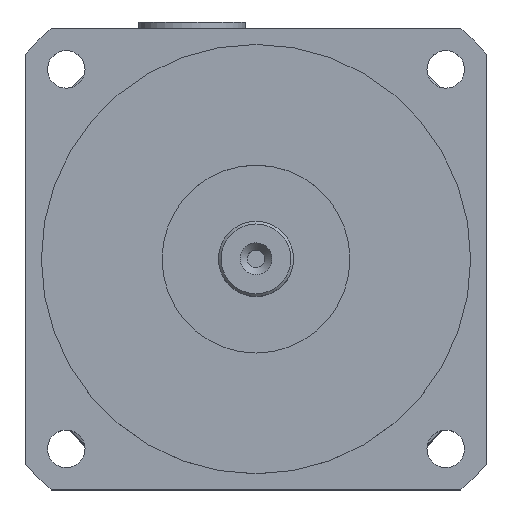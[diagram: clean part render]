
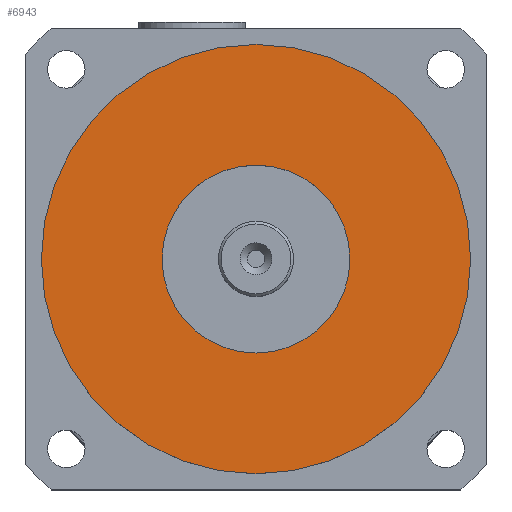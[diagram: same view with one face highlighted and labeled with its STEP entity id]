
A CAD part, top view. The second image highlights one B-rep face of the part: STEP entity #6943.
In plain terms, the highlighted planar face has unit normal (0, 0, 1).
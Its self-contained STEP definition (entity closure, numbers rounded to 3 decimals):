
#2861=VERTEX_POINT('',#10649);
#2862=VERTEX_POINT('',#10653);
#3313=CIRCLE('',#7525,17.5);
#3314=CIRCLE('',#7528,40.);
#3790=EDGE_CURVE('',#2861,#2861,#3313,.T.);
#3791=EDGE_CURVE('',#2862,#2862,#3314,.T.);
#4780=ORIENTED_EDGE('',*,*,#3791,.F.);
#4781=ORIENTED_EDGE('',*,*,#3790,.T.);
#6051=EDGE_LOOP('',(#4780));
#6052=EDGE_LOOP('',(#4781));
#6517=FACE_BOUND('',#6051,.T.);
#6518=FACE_BOUND('',#6052,.T.);
#6943=ADVANCED_FACE('',(#6517,#6518),#8553,.F.);
#7525=AXIS2_PLACEMENT_3D('',#10648,#13809,#13810);
#7528=AXIS2_PLACEMENT_3D('',#10652,#13814,#13815);
#7530=AXIS2_PLACEMENT_3D('',#10656,#13818,$);
#8553=PLANE('',#7530);
#10648=CARTESIAN_POINT('',(0.,0.,177.));
#10649=CARTESIAN_POINT('',(17.5,0.,177.));
#10652=CARTESIAN_POINT('',(0.,0.,177.));
#10653=CARTESIAN_POINT('',(40.,0.,177.));
#10656=CARTESIAN_POINT('',(0.,0.,177.));
#13809=DIRECTION('',(0.,0.,-1.));
#13810=DIRECTION('',(-17.5,0.,0.));
#13814=DIRECTION('',(0.,0.,-1.));
#13815=DIRECTION('',(-40.,0.,0.));
#13818=DIRECTION('',(0.,0.,-1.));
